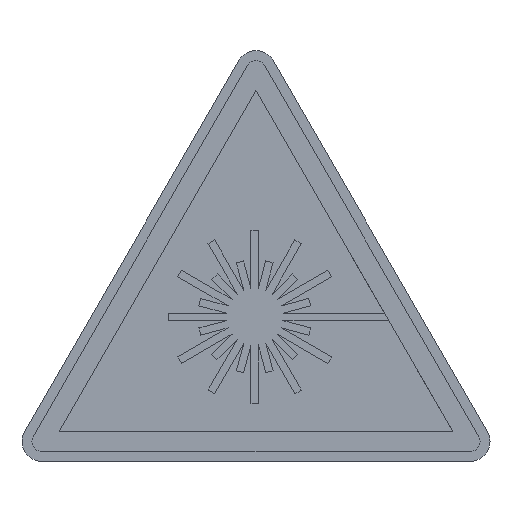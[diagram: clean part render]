
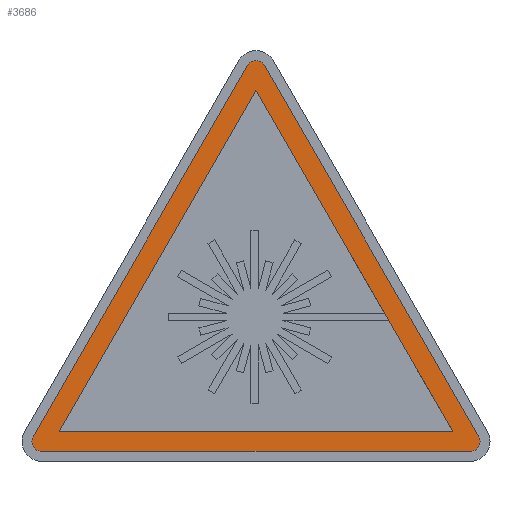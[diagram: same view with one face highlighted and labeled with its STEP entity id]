
A CAD part, top view. The second image highlights one B-rep face of the part: STEP entity #3686.
In plain terms, the highlighted planar face has unit normal (0, 0, 1).
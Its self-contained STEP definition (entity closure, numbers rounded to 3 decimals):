
#141 = CARTESIAN_POINT ( 'NONE',  ( -19.804, 3., 0.22 ) ) ;
#283 = AXIS2_PLACEMENT_3D ( 'NONE', #1631, #1950, #1038 ) ;
#296 = VERTEX_POINT ( 'NONE', #2024 ) ;
#369 = VERTEX_POINT ( 'NONE', #2918 ) ;
#435 = VECTOR ( 'NONE', #3502, 1000. ) ;
#539 = EDGE_CURVE ( 'NONE', #2421, #296, #555, .T. ) ;
#555 = LINE ( 'NONE', #3477, #3104 ) ;
#558 = FACE_BOUND ( 'NONE', #2344, .T. ) ;
#595 = DIRECTION ( 'NONE',  ( 1., 0., 0. ) ) ;
#757 = CARTESIAN_POINT ( 'NONE',  ( 0., 39.301, 0.22 ) ) ;
#806 = VERTEX_POINT ( 'NONE', #141 ) ;
#821 = ORIENTED_EDGE ( 'NONE', *, *, #2950, .T. ) ;
#831 = CARTESIAN_POINT ( 'NONE',  ( 0., 37.301, 0.22 ) ) ;
#899 = DIRECTION ( 'NONE',  ( 0., 0., 1. ) ) ;
#913 = EDGE_CURVE ( 'NONE', #296, #2094, #1402, .T. ) ;
#926 = DIRECTION ( 'NONE',  ( 1., 0., 0. ) ) ;
#930 = CARTESIAN_POINT ( 'NONE',  ( 0., 37.301, 0.22 ) ) ;
#986 = EDGE_CURVE ( 'NONE', #369, #2421, #3040, .T. ) ;
#1029 = AXIS2_PLACEMENT_3D ( 'NONE', #3852, #899, #926 ) ;
#1038 = DIRECTION ( 'NONE',  ( 1., 0., 0. ) ) ;
#1054 = AXIS2_PLACEMENT_3D ( 'NONE', #2342, #3240, #3628 ) ;
#1074 = ORIENTED_EDGE ( 'NONE', *, *, #2671, .F. ) ;
#1094 = ORIENTED_EDGE ( 'NONE', *, *, #2572, .F. ) ;
#1139 = VECTOR ( 'NONE', #4058, 1000. ) ;
#1148 = VERTEX_POINT ( 'NONE', #1421 ) ;
#1222 = LINE ( 'NONE', #3840, #3743 ) ;
#1246 = AXIS2_PLACEMENT_3D ( 'NONE', #757, #1721, #4165 ) ;
#1284 = LINE ( 'NONE', #2194, #435 ) ;
#1402 = CIRCLE ( 'NONE', #3526, 1. ) ;
#1421 = CARTESIAN_POINT ( 'NONE',  ( 19.804, 3., 0.22 ) ) ;
#1507 = DIRECTION ( 'NONE',  ( 0., 0., 1. ) ) ;
#1529 = VERTEX_POINT ( 'NONE', #2186 ) ;
#1631 = CARTESIAN_POINT ( 'NONE',  ( 0., 39.301, 0.22 ) ) ;
#1660 = CARTESIAN_POINT ( 'NONE',  ( 19.804, 3., 0.22 ) ) ;
#1677 = CARTESIAN_POINT ( 'NONE',  ( 22.402, 2.5, 0.22 ) ) ;
#1721 = DIRECTION ( 'NONE',  ( 0., 0., 1. ) ) ;
#1850 = CARTESIAN_POINT ( 'NONE',  ( 21.536, 2., 0.22 ) ) ;
#1928 = CIRCLE ( 'NONE', #1029, 1. ) ;
#1950 = DIRECTION ( 'NONE',  ( 0., 0., 1. ) ) ;
#2023 = ORIENTED_EDGE ( 'NONE', *, *, #913, .T. ) ;
#2024 = CARTESIAN_POINT ( 'NONE',  ( 21.536, 1., 0.22 ) ) ;
#2094 = VERTEX_POINT ( 'NONE', #1677 ) ;
#2146 = ORIENTED_EDGE ( 'NONE', *, *, #3014, .T. ) ;
#2174 = DIRECTION ( 'NONE',  ( -0.5, 0.866, 0. ) ) ;
#2186 = CARTESIAN_POINT ( 'NONE',  ( -22.402, 2.5, 0.22 ) ) ;
#2187 = CARTESIAN_POINT ( 'NONE',  ( 22.402, 2.5, 0.22 ) ) ;
#2194 = CARTESIAN_POINT ( 'NONE',  ( -0.866, 39.801, 0.22 ) ) ;
#2207 = FACE_OUTER_BOUND ( 'NONE', #2563, .T. ) ;
#2281 = EDGE_CURVE ( 'NONE', #3490, #1529, #1284, .T. ) ;
#2342 = CARTESIAN_POINT ( 'NONE',  ( -21.536, 2., 0.22 ) ) ;
#2344 = EDGE_LOOP ( 'NONE', ( #3001, #1074, #1094 ) ) ;
#2347 = ORIENTED_EDGE ( 'NONE', *, *, #539, .T. ) ;
#2421 = VERTEX_POINT ( 'NONE', #3130 ) ;
#2563 = EDGE_LOOP ( 'NONE', ( #821, #3826, #2146, #2739, #2347, #2023, #3839 ) ) ;
#2572 = EDGE_CURVE ( 'NONE', #1148, #3856, #3643, .T. ) ;
#2589 = LINE ( 'NONE', #2187, #3523 ) ;
#2661 = VERTEX_POINT ( 'NONE', #3622 ) ;
#2671 = EDGE_CURVE ( 'NONE', #3856, #806, #3746, .T. ) ;
#2680 = CIRCLE ( 'NONE', #1246, 1. ) ;
#2739 = ORIENTED_EDGE ( 'NONE', *, *, #986, .T. ) ;
#2815 = DIRECTION ( 'NONE',  ( 1., 0., 0. ) ) ;
#2913 = VECTOR ( 'NONE', #3318, 1000. ) ;
#2918 = CARTESIAN_POINT ( 'NONE',  ( -22.536, 2., 0.22 ) ) ;
#2950 = EDGE_CURVE ( 'NONE', #2661, #3490, #2680, .T. ) ;
#3001 = ORIENTED_EDGE ( 'NONE', *, *, #3895, .F. ) ;
#3014 = EDGE_CURVE ( 'NONE', #1529, #369, #1928, .T. ) ;
#3016 = PLANE ( 'NONE',  #283 ) ;
#3040 = CIRCLE ( 'NONE', #1054, 1. ) ;
#3104 = VECTOR ( 'NONE', #3495, 1000. ) ;
#3130 = CARTESIAN_POINT ( 'NONE',  ( -21.536, 1., 0.22 ) ) ;
#3240 = DIRECTION ( 'NONE',  ( 0., 0., 1. ) ) ;
#3318 = DIRECTION ( 'NONE',  ( -0.5, 0.866, 0. ) ) ;
#3477 = CARTESIAN_POINT ( 'NONE',  ( -21.536, 1., 0.22 ) ) ;
#3490 = VERTEX_POINT ( 'NONE', #4108 ) ;
#3495 = DIRECTION ( 'NONE',  ( 1., 0., 0. ) ) ;
#3502 = DIRECTION ( 'NONE',  ( -0.5, -0.866, 0. ) ) ;
#3523 = VECTOR ( 'NONE', #2174, 1000. ) ;
#3526 = AXIS2_PLACEMENT_3D ( 'NONE', #1850, #1507, #2815 ) ;
#3613 = EDGE_CURVE ( 'NONE', #2094, #2661, #2589, .T. ) ;
#3622 = CARTESIAN_POINT ( 'NONE',  ( 0.866, 39.801, 0.22 ) ) ;
#3628 = DIRECTION ( 'NONE',  ( 1., 0., 0. ) ) ;
#3643 = LINE ( 'NONE', #1660, #2913 ) ;
#3686 = ADVANCED_FACE ( 'NONE', ( #2207, #558 ), #3016, .T. ) ;
#3743 = VECTOR ( 'NONE', #595, 1000. ) ;
#3746 = LINE ( 'NONE', #831, #1139 ) ;
#3826 = ORIENTED_EDGE ( 'NONE', *, *, #2281, .T. ) ;
#3839 = ORIENTED_EDGE ( 'NONE', *, *, #3613, .T. ) ;
#3840 = CARTESIAN_POINT ( 'NONE',  ( -19.804, 3., 0.22 ) ) ;
#3852 = CARTESIAN_POINT ( 'NONE',  ( -21.536, 2., 0.22 ) ) ;
#3856 = VERTEX_POINT ( 'NONE', #930 ) ;
#3895 = EDGE_CURVE ( 'NONE', #806, #1148, #1222, .T. ) ;
#4058 = DIRECTION ( 'NONE',  ( -0.5, -0.866, 0. ) ) ;
#4108 = CARTESIAN_POINT ( 'NONE',  ( -0.866, 39.801, 0.22 ) ) ;
#4165 = DIRECTION ( 'NONE',  ( 1., 0., 0. ) ) ;
